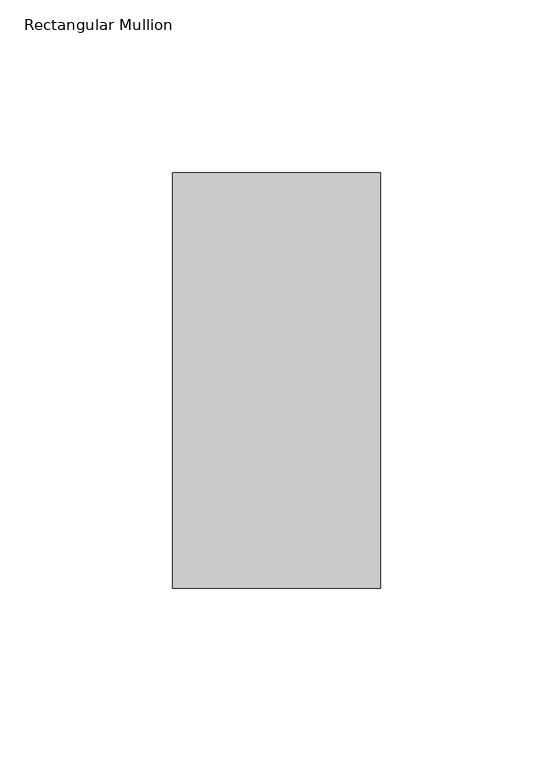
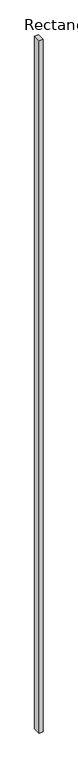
"""IFC4 building model written with IfcOpenShell, lengths in millimetres: member geometry, Rectangular Mullion : Terça."""

from ifc_helpers import new_model, si_unit, frame, origin, place, context, project, spatial, polyline, outline, extrude, source, transform, mapped, element, save


def rectangular_mullion_570d728c(model_context):
    return source(origin(), model_context, "Body", "SweptSolid", [
        extrude(outline(polyline([(0.0, -120.0), (-60.0, -120.0), (-60.0, 0.0), (0.0, 0.0), (0.0, -120.0)])), frame((0.0, 0.0, -11499.877058), z_axis=(0.0, 0.0, 1.0), x_axis=(1.0, 0.0, 0.0)), (0.0, 0.0, 1.0), 11499.877058),
    ])


if __name__ == "__main__":
    model = new_model("IFC4")
    model_context = context("Model", 3, world=origin())
    ifc_project = project(units=[si_unit("LENGTHUNIT", "METRE", prefix="MILLI")], contexts=[model_context])
    site = spatial("IfcSite", under=ifc_project)
    building = spatial("IfcBuilding", under=site)
    placement = place(None, origin())
    rectangular_mullion_shape = rectangular_mullion_570d728c(model_context)
    element("IfcMember", 1, ObjectType="Rectangular Mullion : Terça", at=placement, inside=building, context=model_context, shape_type="MappedRepresentation", body=[
        mapped(rectangular_mullion_shape, transform((0.0, 0.0, 0.0), x_axis=(1.0, 0.0, 0.0), y_axis=(0.0, 1.0, 0.0), z_axis=(0.0, 0.0, 1.0))),
    ])
    save(model, "model.ifc")
